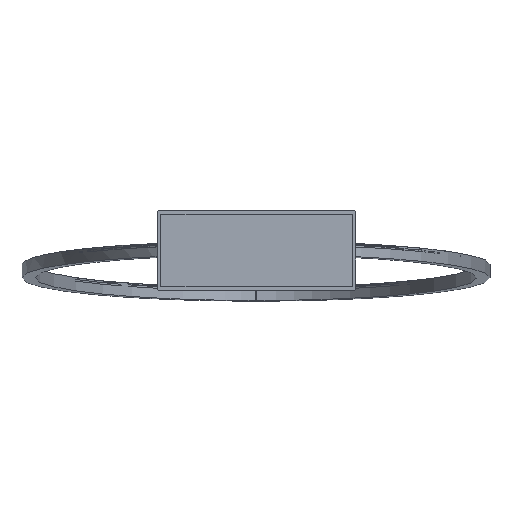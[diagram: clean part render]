
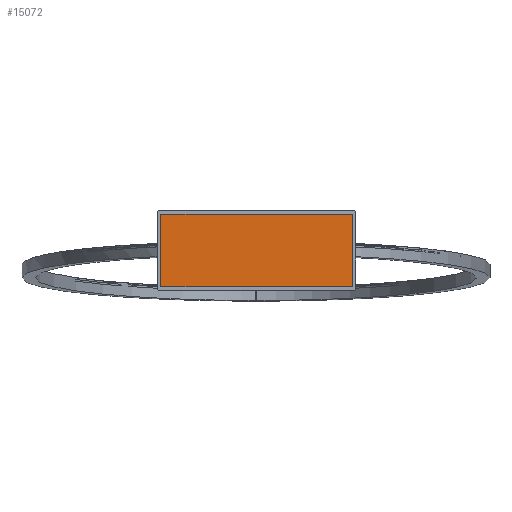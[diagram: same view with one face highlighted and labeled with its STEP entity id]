
A CAD part, front view. The second image highlights one B-rep face of the part: STEP entity #15072.
In plain terms, the highlighted planar face has unit normal (0, -1, 0).
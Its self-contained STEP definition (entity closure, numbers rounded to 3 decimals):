
#647 = CARTESIAN_POINT ( 'NONE',  ( 145., -1., -55. ) ) ;
#713 = CARTESIAN_POINT ( 'NONE',  ( -145., -1., 55. ) ) ;
#718 = ORIENTED_EDGE ( 'NONE', *, *, #7902, .F. ) ;
#1329 = LINE ( 'NONE', #713, #12201 ) ;
#1646 = CARTESIAN_POINT ( 'NONE',  ( -145., -1., -55. ) ) ;
#2333 = AXIS2_PLACEMENT_3D ( 'NONE', #8475, #19250, #10036 ) ;
#4678 = VECTOR ( 'NONE', #7584, 1000. ) ;
#5510 = EDGE_LOOP ( 'NONE', ( #15404, #11463, #17562, #718 ) ) ;
#5532 = CARTESIAN_POINT ( 'NONE',  ( -145., -1., -55. ) ) ;
#6385 = VECTOR ( 'NONE', #9478, 1000. ) ;
#6842 = LINE ( 'NONE', #14129, #6385 ) ;
#7485 = VERTEX_POINT ( 'NONE', #10681 ) ;
#7584 = DIRECTION ( 'NONE',  ( 1., 0., 0. ) ) ;
#7850 = VERTEX_POINT ( 'NONE', #647 ) ;
#7902 = EDGE_CURVE ( 'NONE', #7485, #17105, #1329, .T. ) ;
#8475 = CARTESIAN_POINT ( 'NONE',  ( 0., -1., 0. ) ) ;
#9403 = EDGE_CURVE ( 'NONE', #14464, #7850, #16998, .T. ) ;
#9478 = DIRECTION ( 'NONE',  ( 0., 0., 1. ) ) ;
#9965 = PLANE ( 'NONE',  #2333 ) ;
#10036 = DIRECTION ( 'NONE',  ( 0., 0., 1. ) ) ;
#10090 = LINE ( 'NONE', #5532, #17808 ) ;
#10681 = CARTESIAN_POINT ( 'NONE',  ( -145., -1., 55. ) ) ;
#11463 = ORIENTED_EDGE ( 'NONE', *, *, #9403, .T. ) ;
#11663 = DIRECTION ( 'NONE',  ( 0., 0., 1. ) ) ;
#12201 = VECTOR ( 'NONE', #17647, 1000. ) ;
#13712 = CARTESIAN_POINT ( 'NONE',  ( -145., -1., -55. ) ) ;
#14129 = CARTESIAN_POINT ( 'NONE',  ( 145., -1., -55. ) ) ;
#14464 = VERTEX_POINT ( 'NONE', #1646 ) ;
#14828 = EDGE_CURVE ( 'NONE', #14464, #7485, #10090, .T. ) ;
#15072 = ADVANCED_FACE ( 'NONE', ( #15402 ), #9965, .F. ) ;
#15402 = FACE_OUTER_BOUND ( 'NONE', #5510, .T. ) ;
#15404 = ORIENTED_EDGE ( 'NONE', *, *, #14828, .F. ) ;
#16998 = LINE ( 'NONE', #13712, #4678 ) ;
#17105 = VERTEX_POINT ( 'NONE', #19485 ) ;
#17562 = ORIENTED_EDGE ( 'NONE', *, *, #17997, .T. ) ;
#17647 = DIRECTION ( 'NONE',  ( 1., 0., 0. ) ) ;
#17808 = VECTOR ( 'NONE', #11663, 1000. ) ;
#17997 = EDGE_CURVE ( 'NONE', #7850, #17105, #6842, .T. ) ;
#19250 = DIRECTION ( 'NONE',  ( 0., 1., 0. ) ) ;
#19485 = CARTESIAN_POINT ( 'NONE',  ( 145., -1., 55. ) ) ;
